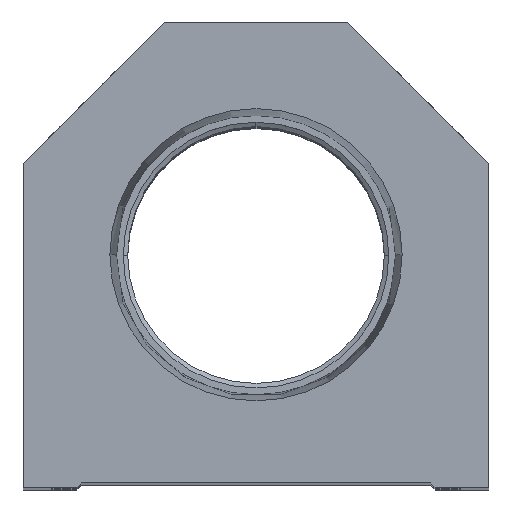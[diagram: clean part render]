
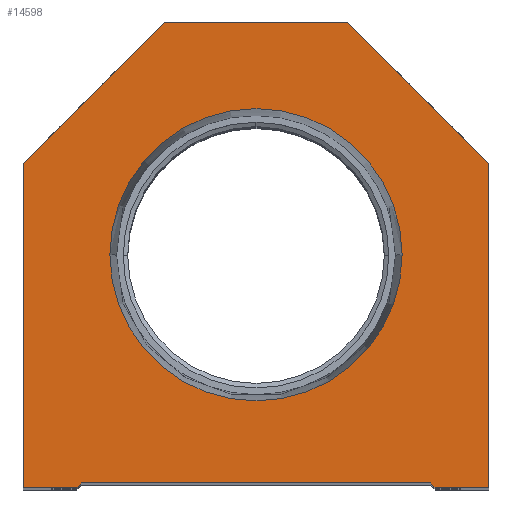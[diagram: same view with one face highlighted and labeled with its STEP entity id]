
A CAD part, top view. The second image highlights one B-rep face of the part: STEP entity #14598.
In plain terms, the highlighted planar face has unit normal (0, 0, 1).
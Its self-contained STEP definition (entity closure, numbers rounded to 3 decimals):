
#143 = ORIENTED_EDGE ( 'NONE', *, *, #16848, .T. ) ;
#251 = VERTEX_POINT ( 'NONE', #8694 ) ;
#363 = DIRECTION ( 'NONE',  ( 1., 0., 0. ) ) ;
#366 = VECTOR ( 'NONE', #5590, 1000. ) ;
#545 = DIRECTION ( 'NONE',  ( 0., 0., 1. ) ) ;
#780 = EDGE_CURVE ( 'NONE', #4815, #3478, #16110, .T. ) ;
#1050 = DIRECTION ( 'NONE',  ( 1., 0., 0. ) ) ;
#1054 = ORIENTED_EDGE ( 'NONE', *, *, #11386, .T. ) ;
#1147 = LINE ( 'NONE', #18683, #366 ) ;
#1169 = CARTESIAN_POINT ( 'NONE',  ( -19.05, 0., 0. ) ) ;
#1318 = EDGE_CURVE ( 'NONE', #9008, #4815, #2223, .T. ) ;
#1393 = CARTESIAN_POINT ( 'NONE',  ( -25.4, 35.4, 0. ) ) ;
#1517 = DIRECTION ( 'NONE',  ( 0.707, 0.707, 0. ) ) ;
#1729 = ORIENTED_EDGE ( 'NONE', *, *, #16531, .F. ) ;
#2223 = LINE ( 'NONE', #11022, #7592 ) ;
#2564 = LINE ( 'NONE', #8298, #10452 ) ;
#2725 = CARTESIAN_POINT ( 'NONE',  ( -25.4, 0., 0. ) ) ;
#2736 = DIRECTION ( 'NONE',  ( -0.707, 0.707, 0. ) ) ;
#3012 = DIRECTION ( 'NONE',  ( 1., 0., 0. ) ) ;
#3345 = CARTESIAN_POINT ( 'NONE',  ( 25.4, 35.4, 0. ) ) ;
#3358 = DIRECTION ( 'NONE',  ( 1., 0., 0. ) ) ;
#3368 = VERTEX_POINT ( 'NONE', #9176 ) ;
#3370 = FACE_BOUND ( 'NONE', #16144, .T. ) ;
#3478 = VERTEX_POINT ( 'NONE', #12424 ) ;
#3527 = CARTESIAN_POINT ( 'NONE',  ( 10., 50.8, 0. ) ) ;
#3635 = AXIS2_PLACEMENT_3D ( 'NONE', #12429, #9275, #9361 ) ;
#4082 = VECTOR ( 'NONE', #9759, 1000. ) ;
#4155 = CARTESIAN_POINT ( 'NONE',  ( 19.05, 0., 0. ) ) ;
#4281 = LINE ( 'NONE', #8829, #17625 ) ;
#4586 = VERTEX_POINT ( 'NONE', #4836 ) ;
#4803 = CARTESIAN_POINT ( 'NONE',  ( 0., 25.4, 0. ) ) ;
#4815 = VERTEX_POINT ( 'NONE', #2725 ) ;
#4836 = CARTESIAN_POINT ( 'NONE',  ( -10., 50.8, 0. ) ) ;
#4883 = ORIENTED_EDGE ( 'NONE', *, *, #1318, .T. ) ;
#5590 = DIRECTION ( 'NONE',  ( -0.707, -0.707, 0. ) ) ;
#5810 = LINE ( 'NONE', #14768, #14215 ) ;
#5972 = VERTEX_POINT ( 'NONE', #8605 ) ;
#6002 = EDGE_CURVE ( 'NONE', #3478, #8242, #15777, .T. ) ;
#6099 = VERTEX_POINT ( 'NONE', #3345 ) ;
#6309 = CARTESIAN_POINT ( 'NONE',  ( -19.05, 0.5, 0. ) ) ;
#6634 = FACE_OUTER_BOUND ( 'NONE', #13443, .T. ) ;
#6783 = CARTESIAN_POINT ( 'NONE',  ( 15.947, 25.4, 0. ) ) ;
#7592 = VECTOR ( 'NONE', #18128, 1000. ) ;
#7692 = DIRECTION ( 'NONE',  ( 0., 0., 1. ) ) ;
#7710 = VECTOR ( 'NONE', #3012, 1000. ) ;
#7748 = LINE ( 'NONE', #3527, #13208 ) ;
#8159 = PLANE ( 'NONE',  #3635 ) ;
#8209 = DIRECTION ( 'NONE',  ( 0., 1., 0. ) ) ;
#8242 = VERTEX_POINT ( 'NONE', #6309 ) ;
#8298 = CARTESIAN_POINT ( 'NONE',  ( 25.4, 0., 0. ) ) ;
#8384 = ORIENTED_EDGE ( 'NONE', *, *, #11693, .F. ) ;
#8605 = CARTESIAN_POINT ( 'NONE',  ( 19.05, 0.5, 0. ) ) ;
#8651 = DIRECTION ( 'NONE',  ( 0.707, -0.707, 0. ) ) ;
#8694 = CARTESIAN_POINT ( 'NONE',  ( 19.55, 0., 0. ) ) ;
#8732 = AXIS2_PLACEMENT_3D ( 'NONE', #17842, #7692, #363 ) ;
#8829 = CARTESIAN_POINT ( 'NONE',  ( 25.4, 35.4, 0. ) ) ;
#8882 = EDGE_CURVE ( 'NONE', #3368, #6099, #2564, .T. ) ;
#9008 = VERTEX_POINT ( 'NONE', #1393 ) ;
#9050 = DIRECTION ( 'NONE',  ( -1., 0., 0. ) ) ;
#9081 = ORIENTED_EDGE ( 'NONE', *, *, #16305, .T. ) ;
#9176 = CARTESIAN_POINT ( 'NONE',  ( 25.4, 0., 0. ) ) ;
#9275 = DIRECTION ( 'NONE',  ( 0., 0., 1. ) ) ;
#9361 = DIRECTION ( 'NONE',  ( 1., 0., 0. ) ) ;
#9635 = VERTEX_POINT ( 'NONE', #10218 ) ;
#9759 = DIRECTION ( 'NONE',  ( 1., 0., 0. ) ) ;
#10084 = ORIENTED_EDGE ( 'NONE', *, *, #17107, .T. ) ;
#10132 = VERTEX_POINT ( 'NONE', #17671 ) ;
#10218 = CARTESIAN_POINT ( 'NONE',  ( 10., 50.8, 0. ) ) ;
#10452 = VECTOR ( 'NONE', #8209, 1000. ) ;
#10602 = ORIENTED_EDGE ( 'NONE', *, *, #6002, .T. ) ;
#11022 = CARTESIAN_POINT ( 'NONE',  ( -25.4, 0., 0. ) ) ;
#11386 = EDGE_CURVE ( 'NONE', #6099, #9635, #4281, .T. ) ;
#11399 = EDGE_CURVE ( 'NONE', #5972, #251, #5810, .T. ) ;
#11530 = ORIENTED_EDGE ( 'NONE', *, *, #8882, .T. ) ;
#11693 = EDGE_CURVE ( 'NONE', #11948, #10132, #18521, .T. ) ;
#11948 = VERTEX_POINT ( 'NONE', #6783 ) ;
#12424 = CARTESIAN_POINT ( 'NONE',  ( -19.55, 0., 0. ) ) ;
#12429 = CARTESIAN_POINT ( 'NONE',  ( 0., 0., 0. ) ) ;
#12731 = LINE ( 'NONE', #14159, #18477 ) ;
#12887 = AXIS2_PLACEMENT_3D ( 'NONE', #4803, #545, #3358 ) ;
#13208 = VECTOR ( 'NONE', #9050, 1000. ) ;
#13388 = ORIENTED_EDGE ( 'NONE', *, *, #11399, .T. ) ;
#13443 = EDGE_LOOP ( 'NONE', ( #16119, #10602, #16840, #13388, #9081, #11530, #1054, #143, #10084, #4883 ) ) ;
#13488 = CIRCLE ( 'NONE', #12887, 15.947 ) ;
#13533 = EDGE_CURVE ( 'NONE', #8242, #5972, #12731, .T. ) ;
#14159 = CARTESIAN_POINT ( 'NONE',  ( -19.05, 0.5, 0. ) ) ;
#14215 = VECTOR ( 'NONE', #8651, 1000. ) ;
#14598 = ADVANCED_FACE ( 'NONE', ( #3370, #6634 ), #8159, .T. ) ;
#14768 = CARTESIAN_POINT ( 'NONE',  ( 9.775, 9.775, 0. ) ) ;
#15777 = LINE ( 'NONE', #17542, #18577 ) ;
#16110 = LINE ( 'NONE', #1169, #7710 ) ;
#16119 = ORIENTED_EDGE ( 'NONE', *, *, #780, .T. ) ;
#16144 = EDGE_LOOP ( 'NONE', ( #8384, #1729 ) ) ;
#16305 = EDGE_CURVE ( 'NONE', #251, #3368, #17074, .T. ) ;
#16531 = EDGE_CURVE ( 'NONE', #10132, #11948, #13488, .T. ) ;
#16840 = ORIENTED_EDGE ( 'NONE', *, *, #13533, .T. ) ;
#16848 = EDGE_CURVE ( 'NONE', #9635, #4586, #7748, .T. ) ;
#17074 = LINE ( 'NONE', #4155, #4082 ) ;
#17107 = EDGE_CURVE ( 'NONE', #4586, #9008, #1147, .T. ) ;
#17542 = CARTESIAN_POINT ( 'NONE',  ( -9.775, 9.775, 0. ) ) ;
#17625 = VECTOR ( 'NONE', #2736, 1000. ) ;
#17671 = CARTESIAN_POINT ( 'NONE',  ( -15.947, 25.4, 0. ) ) ;
#17842 = CARTESIAN_POINT ( 'NONE',  ( 0., 25.4, 0. ) ) ;
#18128 = DIRECTION ( 'NONE',  ( 0., -1., 0. ) ) ;
#18477 = VECTOR ( 'NONE', #1050, 1000. ) ;
#18521 = CIRCLE ( 'NONE', #8732, 15.947 ) ;
#18577 = VECTOR ( 'NONE', #1517, 1000. ) ;
#18683 = CARTESIAN_POINT ( 'NONE',  ( -25.4, 35.4, 0. ) ) ;
